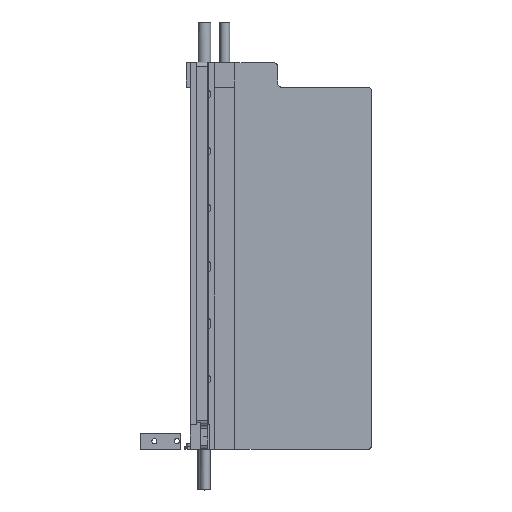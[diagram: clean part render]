
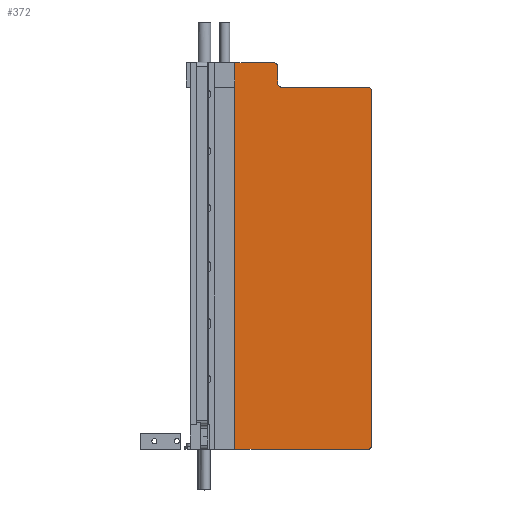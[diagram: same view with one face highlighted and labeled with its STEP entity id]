
A CAD part, top view. The second image highlights one B-rep face of the part: STEP entity #372.
In plain terms, the highlighted planar face has unit normal (0, 0, 1).
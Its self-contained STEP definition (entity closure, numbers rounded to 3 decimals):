
#372 = ADVANCED_FACE( '', ( #589 ), #590, .F. );
#589 = FACE_OUTER_BOUND( '', #895, .T. );
#590 = PLANE( '', #896 );
#895 = EDGE_LOOP( '', ( #1442, #1443, #1444, #1445, #1446, #1447, #1448, #1449, #1450, #1451 ) );
#896 = AXIS2_PLACEMENT_3D( '', #1452, #1453, #1454 );
#1442 = ORIENTED_EDGE( '', *, *, #2071, .T. );
#1443 = ORIENTED_EDGE( '', *, *, #2072, .T. );
#1444 = ORIENTED_EDGE( '', *, *, #2073, .F. );
#1445 = ORIENTED_EDGE( '', *, *, #2074, .F. );
#1446 = ORIENTED_EDGE( '', *, *, #2075, .T. );
#1447 = ORIENTED_EDGE( '', *, *, #2076, .T. );
#1448 = ORIENTED_EDGE( '', *, *, #2077, .T. );
#1449 = ORIENTED_EDGE( '', *, *, #2078, .T. );
#1450 = ORIENTED_EDGE( '', *, *, #2079, .F. );
#1451 = ORIENTED_EDGE( '', *, *, #2080, .T. );
#1452 = CARTESIAN_POINT( '', ( 22., 190., 5.75 ) );
#1453 = DIRECTION( '', ( 0., 0., -1. ) );
#1454 = DIRECTION( '', ( -1., 0., 0. ) );
#2071 = EDGE_CURVE( '', #2436, #2437, #2438, .T. );
#2072 = EDGE_CURVE( '', #2437, #2439, #2440, .F. );
#2073 = EDGE_CURVE( '', #2441, #2439, #2442, .T. );
#2074 = EDGE_CURVE( '', #2443, #2441, #2444, .T. );
#2075 = EDGE_CURVE( '', #2443, #2445, #2446, .T. );
#2076 = EDGE_CURVE( '', #2445, #2447, #2448, .T. );
#2077 = EDGE_CURVE( '', #2447, #2449, #2450, .T. );
#2078 = EDGE_CURVE( '', #2449, #2451, #2452, .F. );
#2079 = EDGE_CURVE( '', #2453, #2451, #2454, .T. );
#2080 = EDGE_CURVE( '', #2453, #2436, #2455, .T. );
#2436 = VERTEX_POINT( '', #2976 );
#2437 = VERTEX_POINT( '', #2977 );
#2438 = LINE( '', #2978, #2979 );
#2439 = VERTEX_POINT( '', #2980 );
#2440 = CIRCLE( '', #2981, 2. );
#2441 = VERTEX_POINT( '', #2982 );
#2442 = LINE( '', #2983, #2984 );
#2443 = VERTEX_POINT( '', #2985 );
#2444 = CIRCLE( '', #2986, 2. );
#2445 = VERTEX_POINT( '', #2987 );
#2446 = LINE( '', #2988, #2989 );
#2447 = VERTEX_POINT( '', #2990 );
#2448 = CIRCLE( '', #2991, 2. );
#2449 = VERTEX_POINT( '', #2992 );
#2450 = LINE( '', #2993, #2994 );
#2451 = VERTEX_POINT( '', #2995 );
#2452 = CIRCLE( '', #2996, 2. );
#2453 = VERTEX_POINT( '', #2997 );
#2454 = LINE( '', #2998, #2999 );
#2455 = LINE( '', #3000, #3001 );
#2976 = CARTESIAN_POINT( '', ( 22., 0., 5.75 ) );
#2977 = CARTESIAN_POINT( '', ( 87.3, 0., 5.75 ) );
#2978 = CARTESIAN_POINT( '', ( 22., 0., 5.75 ) );
#2979 = VECTOR( '', #3576, 1000. );
#2980 = CARTESIAN_POINT( '', ( 89.3, 2., 5.75 ) );
#2981 = AXIS2_PLACEMENT_3D( '', #3577, #3578, #3579 );
#2982 = CARTESIAN_POINT( '', ( 89.3, 176., 5.75 ) );
#2983 = CARTESIAN_POINT( '', ( 89.3, 190., 5.75 ) );
#2984 = VECTOR( '', #3580, 1000. );
#2985 = CARTESIAN_POINT( '', ( 87.3, 178., 5.75 ) );
#2986 = AXIS2_PLACEMENT_3D( '', #3581, #3582, #3583 );
#2987 = CARTESIAN_POINT( '', ( 45., 178., 5.75 ) );
#2988 = CARTESIAN_POINT( '', ( 22., 178., 5.75 ) );
#2989 = VECTOR( '', #3584, 1000. );
#2990 = CARTESIAN_POINT( '', ( 43., 180., 5.75 ) );
#2991 = AXIS2_PLACEMENT_3D( '', #3585, #3586, #3587 );
#2992 = CARTESIAN_POINT( '', ( 43., 188., 5.75 ) );
#2993 = CARTESIAN_POINT( '', ( 43., 190., 5.75 ) );
#2994 = VECTOR( '', #3588, 1000. );
#2995 = CARTESIAN_POINT( '', ( 41., 190., 5.75 ) );
#2996 = AXIS2_PLACEMENT_3D( '', #3589, #3590, #3591 );
#2997 = CARTESIAN_POINT( '', ( 22., 190., 5.75 ) );
#2998 = CARTESIAN_POINT( '', ( 22., 190., 5.75 ) );
#2999 = VECTOR( '', #3592, 1000. );
#3000 = CARTESIAN_POINT( '', ( 22., 190., 5.75 ) );
#3001 = VECTOR( '', #3593, 1000. );
#3576 = DIRECTION( '', ( 1., 0., 0. ) );
#3577 = CARTESIAN_POINT( '', ( 87.3, 2., 5.75 ) );
#3578 = DIRECTION( '', ( 0., 0., -1. ) );
#3579 = DIRECTION( '', ( -1., 0., 0. ) );
#3580 = DIRECTION( '', ( 0., -1., 0. ) );
#3581 = CARTESIAN_POINT( '', ( 87.3, 176., 5.75 ) );
#3582 = DIRECTION( '', ( 0., 0., -1. ) );
#3583 = DIRECTION( '', ( -1., 0., 0. ) );
#3584 = DIRECTION( '', ( -1., 0., 0. ) );
#3585 = CARTESIAN_POINT( '', ( 45., 180., 5.75 ) );
#3586 = DIRECTION( '', ( 0., 0., -1. ) );
#3587 = DIRECTION( '', ( -1., 0., 0. ) );
#3588 = DIRECTION( '', ( 0., 1., 0. ) );
#3589 = CARTESIAN_POINT( '', ( 41., 188., 5.75 ) );
#3590 = DIRECTION( '', ( 0., 0., -1. ) );
#3591 = DIRECTION( '', ( -1., 0., 0. ) );
#3592 = DIRECTION( '', ( 1., 0., 0. ) );
#3593 = DIRECTION( '', ( 0., -1., 0. ) );
